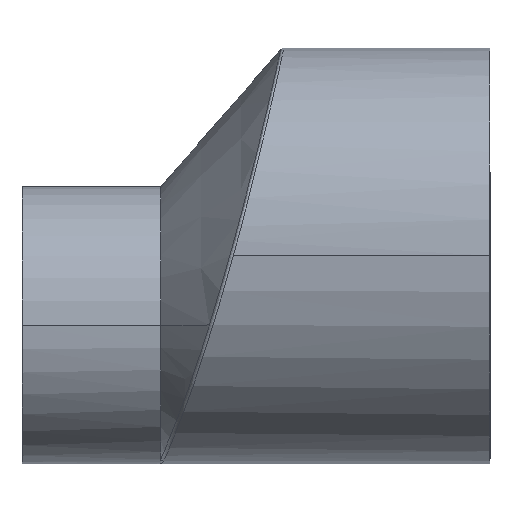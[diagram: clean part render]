
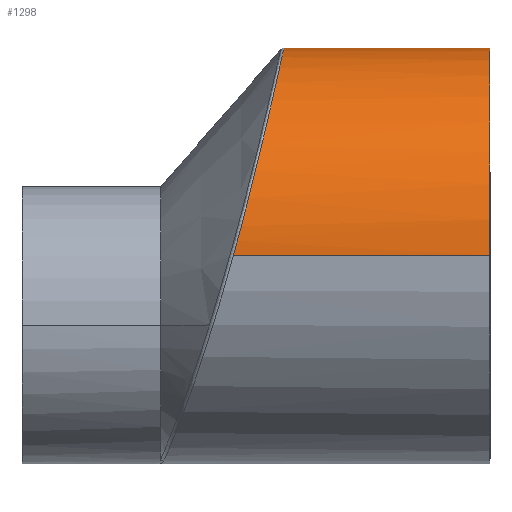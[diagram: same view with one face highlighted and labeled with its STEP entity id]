
A CAD part, top view. The second image highlights one B-rep face of the part: STEP entity #1298.
In plain terms, the highlighted cylindrical face has radius 38.1 mm (diameter 76.2 mm), a partial arc.
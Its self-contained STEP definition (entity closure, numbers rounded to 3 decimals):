
#1 = EDGE_LOOP ( 'NONE', ( #110, #237, #295, #155 ) ) ;
#5 = CARTESIAN_POINT ( 'NONE',  ( -39.895, 28.451, 25.349 ) ) ;
#19 = CARTESIAN_POINT ( 'NONE',  ( -37.852, 37.599, 6.287 ) ) ;
#48 = CARTESIAN_POINT ( 'NONE',  ( -44.443, 9.666, -36.859 ) ) ;
#53 = CARTESIAN_POINT ( 'NONE',  ( -45.693, 4.862, 37.869 ) ) ;
#65 = CARTESIAN_POINT ( 'NONE',  ( -85.725, 0., 38.1 ) ) ;
#76 = CARTESIAN_POINT ( 'NONE',  ( -38.881, 32.93, -19.33 ) ) ;
#84 = B_SPLINE_CURVE_WITH_KNOTS ( 'NONE', 3,
 ( #1182, #141, #379, #643, #398, #48, #819, #1072, #850, #178, #768, #145, #861, #1403, #1068, #597, #700, #825, #1168, #366, #934, #692, #1224, #76, #519, #1085, #1093, #286, #159, #602, #372, #499, #1173, #981, #1275, #857, #232, #1041, #19, #1054, #152, #1080, #1060, #1447, #807, #689, #714, #628, #607, #1380, #5, #867, #1301, #584, #413, #427, #252, #881, #173, #114, #485, #1193, #1413, #53, #1283, #743 ),
 .UNSPECIFIED., .F., .F.,
 ( 4, 2, 2, 2, 2, 2, 2, 2, 2, 2, 2, 2, 2, 2, 2, 2, 2, 2, 2, 2, 2, 2, 2, 2, 2, 2, 2, 2, 2, 2, 2, 2, 4 ),
 ( 0.055, 0.062, 0.064, 0.066, 0.07, 0.078, 0.079, 0.081, 0.085, 0.089, 0.091, 0.093, 0.1, 0.104, 0.106, 0.108, 0.115, 0.117, 0.119, 0.123, 0.127, 0.129, 0.13, 0.138, 0.142, 0.144, 0.146, 0.153, 0.155, 0.157, 0.161, 0.168, 0.176 ),
 .UNSPECIFIED. ) ;
#90 = DIRECTION ( 'NONE',  ( 1., 0., 0. ) ) ;
#110 = ORIENTED_EDGE ( 'NONE', *, *, #461, .T. ) ;
#114 = CARTESIAN_POINT ( 'NONE',  ( -42.699, 16.607, 34.313 ) ) ;
#117 = VERTEX_POINT ( 'NONE', #1277 ) ;
#120 = DIRECTION ( 'NONE',  ( 1., 0., 0. ) ) ;
#135 = VERTEX_POINT ( 'NONE', #928 ) ;
#139 = EDGE_CURVE ( 'NONE', #649, #117, #1074, .T. ) ;
#141 = CARTESIAN_POINT ( 'NONE',  ( -46.344, 2.434, -38.1 ) ) ;
#145 = CARTESIAN_POINT ( 'NONE',  ( -41.54, 21.406, -31.524 ) ) ;
#152 = CARTESIAN_POINT ( 'NONE',  ( -38.028, 36.792, 9.977 ) ) ;
#155 = ORIENTED_EDGE ( 'NONE', *, *, #139, .F. ) ;
#159 = CARTESIAN_POINT ( 'NONE',  ( -38.035, 36.761, -10.032 ) ) ;
#173 = CARTESIAN_POINT ( 'NONE',  ( -42.297, 18.257, 33.447 ) ) ;
#178 = CARTESIAN_POINT ( 'NONE',  ( -42.694, 16.615, -34.374 ) ) ;
#232 = CARTESIAN_POINT ( 'NONE',  ( -37.77, 37.976, 3.141 ) ) ;
#237 = ORIENTED_EDGE ( 'NONE', *, *, #697, .T. ) ;
#247 = AXIS2_PLACEMENT_3D ( 'NONE', #890, #90, #1018 ) ;
#252 = CARTESIAN_POINT ( 'NONE',  ( -41.905, 19.879, 32.509 ) ) ;
#273 = FACE_OUTER_BOUND ( 'NONE', #1, .T. ) ;
#286 = CARTESIAN_POINT ( 'NONE',  ( -38.073, 36.588, -10.647 ) ) ;
#295 = ORIENTED_EDGE ( 'NONE', *, *, #1165, .F. ) ;
#341 = CIRCLE ( 'NONE', #247, 38.1 ) ;
#366 = CARTESIAN_POINT ( 'NONE',  ( -39.626, 29.632, -23.957 ) ) ;
#367 = LINE ( 'NONE', #65, #635 ) ;
#372 = CARTESIAN_POINT ( 'NONE',  ( -37.935, 37.217, -8.182 ) ) ;
#379 = CARTESIAN_POINT ( 'NONE',  ( -45.695, 4.856, -37.869 ) ) ;
#398 = CARTESIAN_POINT ( 'NONE',  ( -44.752, 8.466, -37.153 ) ) ;
#413 = CARTESIAN_POINT ( 'NONE',  ( -41.158, 23.006, 30.471 ) ) ;
#427 = CARTESIAN_POINT ( 'NONE',  ( -41.778, 20.408, 32.179 ) ) ;
#461 = EDGE_CURVE ( 'NONE', #649, #135, #84, .T. ) ;
#471 = CARTESIAN_POINT ( 'NONE',  ( -85.725, 0., -38.1 ) ) ;
#485 = CARTESIAN_POINT ( 'NONE',  ( -42.975, 15.488, 34.832 ) ) ;
#499 = CARTESIAN_POINT ( 'NONE',  ( -37.798, 37.844, -5.083 ) ) ;
#519 = CARTESIAN_POINT ( 'NONE',  ( -38.615, 34.127, -17.125 ) ) ;
#584 = CARTESIAN_POINT ( 'NONE',  ( -40.705, 24.937, 28.913 ) ) ;
#597 = CARTESIAN_POINT ( 'NONE',  ( -40.719, 24.884, -28.878 ) ) ;
#602 = CARTESIAN_POINT ( 'NONE',  ( -37.966, 37.075, -8.799 ) ) ;
#607 = CARTESIAN_POINT ( 'NONE',  ( -39.524, 30.079, 23.42 ) ) ;
#628 = CARTESIAN_POINT ( 'NONE',  ( -39.353, 30.833, 22.417 ) ) ;
#635 = VECTOR ( 'NONE', #120, 1000. ) ;
#643 = CARTESIAN_POINT ( 'NONE',  ( -44.908, 7.865, -37.284 ) ) ;
#649 = VERTEX_POINT ( 'NONE', #736 ) ;
#664 = AXIS2_PLACEMENT_3D ( 'NONE', #1091, #1210, #1004 ) ;
#689 = CARTESIAN_POINT ( 'NONE',  ( -38.612, 34.141, 17.102 ) ) ;
#692 = CARTESIAN_POINT ( 'NONE',  ( -39.365, 30.782, -22.46 ) ) ;
#697 = EDGE_CURVE ( 'NONE', #135, #1434, #367, .T. ) ;
#700 = CARTESIAN_POINT ( 'NONE',  ( -40.503, 25.812, -28.052 ) ) ;
#714 = CARTESIAN_POINT ( 'NONE',  ( -38.879, 32.941, 19.308 ) ) ;
#736 = CARTESIAN_POINT ( 'NONE',  ( -47.016, 0., -38.1 ) ) ;
#743 = CARTESIAN_POINT ( 'NONE',  ( -47.016, 0., 38.1 ) ) ;
#768 = CARTESIAN_POINT ( 'NONE',  ( -42.163, 18.799, -33.233 ) ) ;
#778 = VECTOR ( 'NONE', #1225, 1000. ) ;
#807 = CARTESIAN_POINT ( 'NONE',  ( -38.34, 35.373, 14.17 ) ) ;
#819 = CARTESIAN_POINT ( 'NONE',  ( -44.289, 10.266, -36.696 ) ) ;
#825 = CARTESIAN_POINT ( 'NONE',  ( -40.094, 27.584, -26.311 ) ) ;
#848 = CYLINDRICAL_SURFACE ( 'NONE', #664, 38.1 ) ;
#850 = CARTESIAN_POINT ( 'NONE',  ( -43.544, 13.203, -35.76 ) ) ;
#857 = CARTESIAN_POINT ( 'NONE',  ( -37.759, 38.023, 2.503 ) ) ;
#861 = CARTESIAN_POINT ( 'NONE',  ( -41.417, 21.923, -31.167 ) ) ;
#867 = CARTESIAN_POINT ( 'NONE',  ( -40.091, 27.599, 26.274 ) ) ;
#881 = CARTESIAN_POINT ( 'NONE',  ( -42.165, 18.803, 33.143 ) ) ;
#890 = CARTESIAN_POINT ( 'NONE',  ( 0., 0., 0. ) ) ;
#928 = CARTESIAN_POINT ( 'NONE',  ( -47.016, 0., 38.1 ) ) ;
#934 = CARTESIAN_POINT ( 'NONE',  ( -39.537, 30.023, -23.466 ) ) ;
#981 = CARTESIAN_POINT ( 'NONE',  ( -37.743, 38.101, 0.593 ) ) ;
#1004 = DIRECTION ( 'NONE',  ( 0., 0., -1. ) ) ;
#1018 = DIRECTION ( 'NONE',  ( 0., 0., -1. ) ) ;
#1041 = CARTESIAN_POINT ( 'NONE',  ( -37.811, 37.787, 5.037 ) ) ;
#1054 = CARTESIAN_POINT ( 'NONE',  ( -37.96, 37.101, 8.757 ) ) ;
#1060 = CARTESIAN_POINT ( 'NONE',  ( -38.194, 36.036, 12.385 ) ) ;
#1068 = CARTESIAN_POINT ( 'NONE',  ( -41.061, 23.43, -30.051 ) ) ;
#1072 = CARTESIAN_POINT ( 'NONE',  ( -43.836, 12.042, -36.168 ) ) ;
#1074 = LINE ( 'NONE', #471, #778 ) ;
#1080 = CARTESIAN_POINT ( 'NONE',  ( -38.15, 36.237, 11.786 ) ) ;
#1085 = CARTESIAN_POINT ( 'NONE',  ( -38.292, 35.592, -13.653 ) ) ;
#1091 = CARTESIAN_POINT ( 'NONE',  ( -85.725, 0., 0. ) ) ;
#1093 = CARTESIAN_POINT ( 'NONE',  ( -38.197, 36.025, -12.468 ) ) ;
#1157 = CARTESIAN_POINT ( 'NONE',  ( 0., 0., 38.1 ) ) ;
#1165 = EDGE_CURVE ( 'NONE', #117, #1434, #341, .T. ) ;
#1168 = CARTESIAN_POINT ( 'NONE',  ( -39.9, 28.429, -25.396 ) ) ;
#1173 = CARTESIAN_POINT ( 'NONE',  ( -37.743, 38.097, -2.576 ) ) ;
#1182 = CARTESIAN_POINT ( 'NONE',  ( -47.016, 0., -38.1 ) ) ;
#1193 = CARTESIAN_POINT ( 'NONE',  ( -43.825, 12.073, 36.22 ) ) ;
#1210 = DIRECTION ( 'NONE',  ( 1., 0., 0. ) ) ;
#1224 = CARTESIAN_POINT ( 'NONE',  ( -39.282, 31.152, -21.945 ) ) ;
#1225 = DIRECTION ( 'NONE',  ( 1., 0., 0. ) ) ;
#1275 = CARTESIAN_POINT ( 'NONE',  ( -37.746, 38.086, 1.228 ) ) ;
#1277 = CARTESIAN_POINT ( 'NONE',  ( 0., 0., -38.1 ) ) ;
#1283 = CARTESIAN_POINT ( 'NONE',  ( -46.345, 2.43, 38.1 ) ) ;
#1298 = ADVANCED_FACE ( 'NONE', ( #273 ), #848, .T. ) ;
#1301 = CARTESIAN_POINT ( 'NONE',  ( -40.191, 27.163, 26.724 ) ) ;
#1380 = CARTESIAN_POINT ( 'NONE',  ( -39.8, 28.868, 24.872 ) ) ;
#1403 = CARTESIAN_POINT ( 'NONE',  ( -41.177, 22.935, -30.43 ) ) ;
#1413 = CARTESIAN_POINT ( 'NONE',  ( -44.424, 9.72, 36.922 ) ) ;
#1434 = VERTEX_POINT ( 'NONE', #1157 ) ;
#1447 = CARTESIAN_POINT ( 'NONE',  ( -38.289, 35.605, 13.577 ) ) ;
